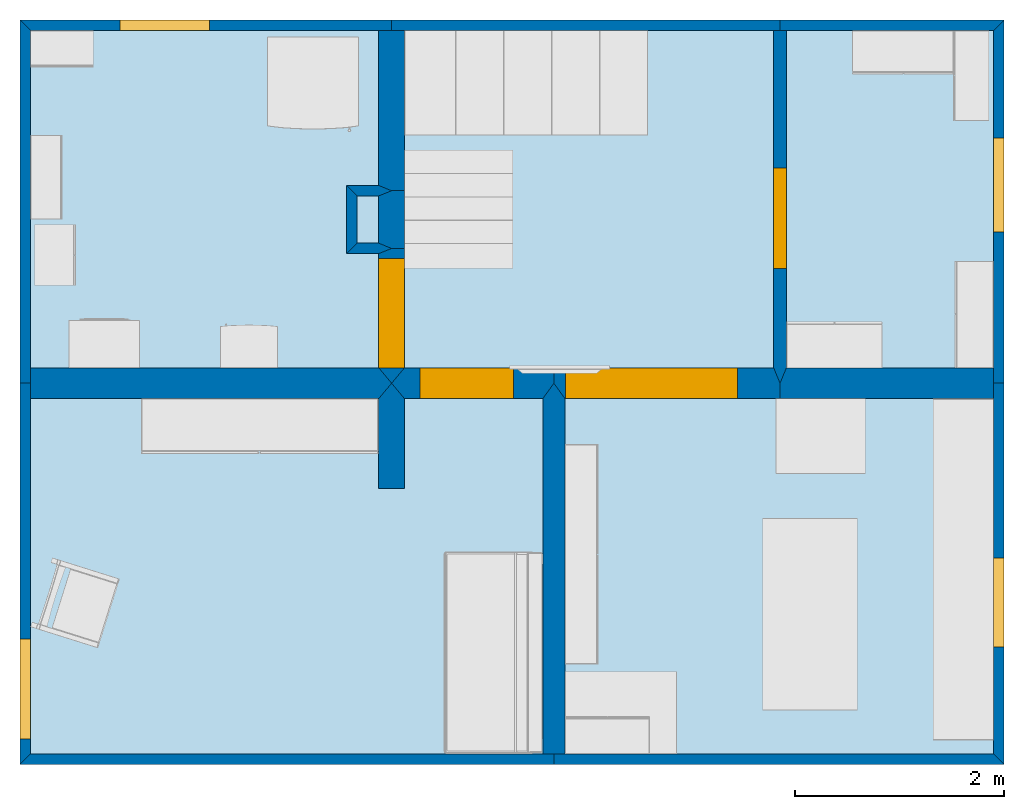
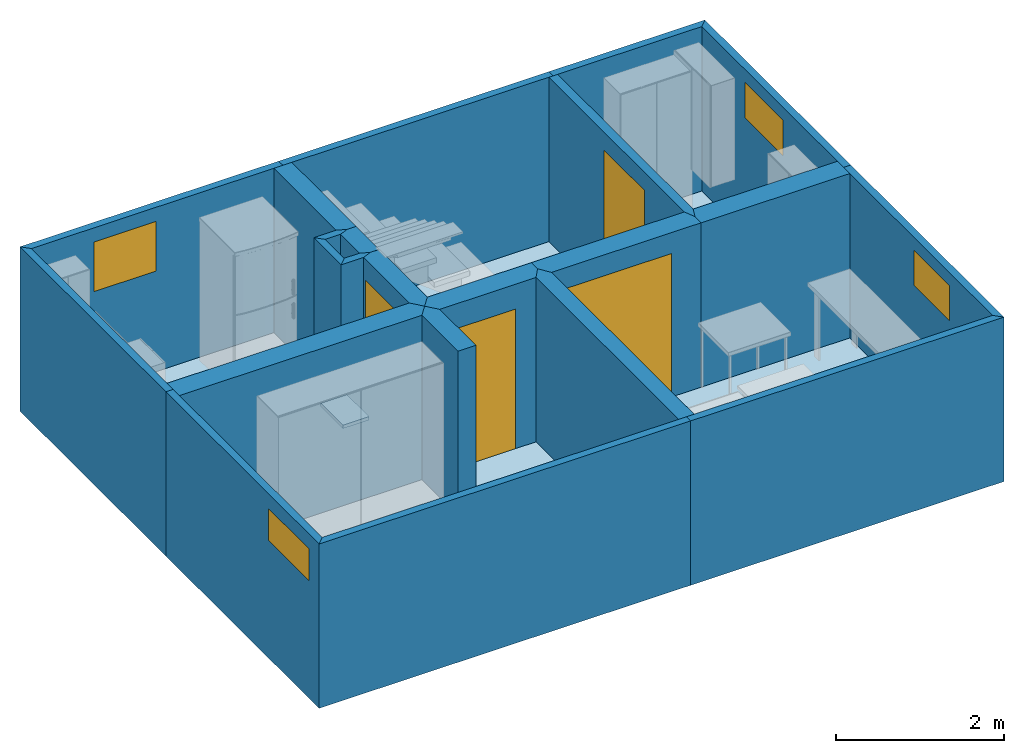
# One storey, part 1 of 8: 22 walls, 6 slabs, 4 doors, 4 windows, 8 openings.
"""IFC4 building model written with IfcOpenShell, lengths in metres."""

import ifcopenshell
import ifcopenshell.guid

model = None  # the IFC model being written
_history = None  # IfcOwnerHistory: only IFC2X3 demands one
_inside = {}  # id of a spatial element -> (the spatial element, [elements in it])
_under = {}  # id of a project, library or spatial element -> (it, [spatial elements below it])
_declared = {}  # id of a project -> (the project, [libraries it declares])
_typed = {}  # id of a type object -> (the type object, [elements of that type])
_made_of = {}  # id of a material, layer set ... -> (it, [elements and type objects made of it])


def new_model(schema):
    """Start an empty IFC model of exactly this schema.

    Asked for "IFC4X3", IfcOpenShell would pick the latest addendum, in which some entities
    have other attributes; the version numbers below select the first issue.
    IFC2X3 requires an IfcOwnerHistory on every rooted entity: one is made here for all.
    """
    global model, _history
    if schema == "IFC4X3":
        model = ifcopenshell.file(schema_version=(4, 3, 0, 0))
    else:
        model = ifcopenshell.file(schema=schema)
    _inside.clear()
    _under.clear()
    _declared.clear()
    _typed.clear()
    _made_of.clear()
    _history = None
    if model.schema == "IFC2X3":
        org = make("IfcOrganization", Name="unknown")
        user = make(
            "IfcPersonAndOrganization",
            ThePerson=make("IfcPerson", FamilyName="unknown"),
            TheOrganization=org,
        )
        app = make(
            "IfcApplication",
            ApplicationDeveloper=org,
            Version="unknown",
            ApplicationFullName="unknown",
            ApplicationIdentifier="unknown",
        )
        _history = make(
            "IfcOwnerHistory",
            OwningUser=user,
            OwningApplication=app,
            ChangeAction="ADDED",
            CreationDate=0,
        )
    return model


def make(cls, **values):
    """One entity of the class cls with the attributes given. An attribute that is None is left unset."""
    return model.create_entity(
        cls, **{name: value for name, value in values.items() if value is not None}
    )


def rooted(cls, **values):
    """An entity with a GlobalId (a new one), such as an element, a storey or a relation."""
    return make(cls, GlobalId=ifcopenshell.guid.new(), OwnerHistory=_history, **values)


def si_unit(unit_type, name, prefix=None):
    """IfcSIUnit, for example si_unit("LENGTHUNIT", "METRE", prefix="MILLI")."""
    return make("IfcSIUnit", UnitType=unit_type, Prefix=prefix, Name=name)


def assignment(units):
    """IfcUnitAssignment: the units of a project."""
    return None if units is None else make("IfcUnitAssignment", Units=units)


def point(xyz):
    """IfcCartesianPoint."""
    return None if xyz is None else make("IfcCartesianPoint", Coordinates=xyz)


def direction(xyz):
    """IfcDirection."""
    return None if xyz is None else make("IfcDirection", DirectionRatios=xyz)


def frame(location, z_axis=None, x_axis=None):
    """IfcAxis2Placement3D, a coordinate frame: its origin and axes. An axis left out is left unset."""
    return make(
        "IfcAxis2Placement3D",
        Location=point(location),
        Axis=direction(z_axis),
        RefDirection=direction(x_axis),
    )


def origin_with_axes():
    """The frame at (0, 0, 0) with the z axis (0, 0, 1) and the x axis (1, 0, 0) written out."""
    return frame((0.0, 0.0, 0.0), z_axis=(0.0, 0.0, 1.0), x_axis=(1.0, 0.0, 0.0))


def place(relative_to, where):
    """IfcLocalPlacement: puts the frame where relative to a parent placement (None: the world)."""
    return make(
        "IfcLocalPlacement", PlacementRelTo=relative_to, RelativePlacement=where
    )


def context(
    kind, dimensions, precision=None, world=None, true_north=None, identifier=None
):
    """IfcGeometricRepresentationContext, for example the 3D "Model" context."""
    return make(
        "IfcGeometricRepresentationContext",
        ContextIdentifier=identifier,
        ContextType=kind,
        CoordinateSpaceDimension=dimensions,
        Precision=precision,
        WorldCoordinateSystem=world,
        TrueNorth=true_north,
    )


def subcontext(parent, identifier, kind, view, scale=None):
    """IfcGeometricRepresentationSubContext, for example "Body" below "Model"."""
    return make(
        "IfcGeometricRepresentationSubContext",
        ContextIdentifier=identifier,
        ContextType=kind,
        ParentContext=parent,
        TargetScale=scale,
        TargetView=view,
    )


def project(units=None, contexts=None):
    """IfcProject with its units and contexts."""
    return rooted(
        "IfcProject",
        Name="project",
        RepresentationContexts=contexts,
        UnitsInContext=assignment(units),
    )


def spatial(cls, under=None, at=None, **own):
    """A site, building, storey or space (cls), placed at a placement, below another one or the project."""
    s = rooted(cls, ObjectPlacement=at, **own)
    if under is not None:
        _under.setdefault(under.id(), (under, []))[1].append(s)
    return s


def polyline(points):
    """IfcPolyline through the points."""
    return make("IfcPolyline", Points=[point(p) for p in points])


def outline(outer, holes=None, kind="AREA"):
    """IfcArbitraryClosedProfileDef: a profile drawn as a closed curve; with holes, ...WithVoids."""
    if holes is None:
        return make("IfcArbitraryClosedProfileDef", ProfileType=kind, OuterCurve=outer)
    return make(
        "IfcArbitraryProfileDefWithVoids",
        ProfileType=kind,
        OuterCurve=outer,
        InnerCurves=holes,
    )


def extrude(swept, where, along, depth):
    """IfcExtrudedAreaSolid: the profile swept, set in the frame where, extruded along a direction by depth."""
    return make(
        "IfcExtrudedAreaSolid",
        SweptArea=swept,
        Position=where,
        ExtrudedDirection=direction(along),
        Depth=depth,
    )


def shape(context_of_items, identifier, shape_type, items):
    """IfcShapeRepresentation: the items that make up one representation, for example the "Body"."""
    return make(
        "IfcShapeRepresentation",
        ContextOfItems=context_of_items,
        RepresentationIdentifier=identifier,
        RepresentationType=shape_type,
        Items=items,
    )


def made_of(thing, what):
    """Note that an element or type object is made of a material, layer set ...; save() writes the relation."""
    if what is not None:
        _made_of.setdefault(what.id(), (what, []))[1].append(thing)
    return thing


def type_object(cls, material=None, **own):
    """A type object (cls), such as IfcWallType, which elements share."""
    return made_of(rooted(cls, **own), material)


def element(
    cls,
    number,
    at=None,
    inside=None,
    cuts=None,
    type_object=None,
    material=None,
    context=None,
    identifier="Body",
    shape_type=None,
    held_by="IfcProductDefinitionShape",
    body=None,
    shapes=None,
    **own,
):
    """One element of the class cls, such as IfcWall. Its Tag is "e" and its number.

    at: its placement. inside: the storey or other place that contains it. cuts: it is an
    opening in that element (IfcRelVoidsElement). A single representation is given by context,
    identifier, shape_type and body (its items); several are given by shapes. held_by: the class
    of the entity that holds the representations. save() writes the other relations.
    """
    e = rooted(cls, Tag="e%d" % number, ObjectPlacement=at, **own)
    if body is not None:
        shapes = [shape(context, identifier, shape_type, body)]
    if shapes is not None:
        e.Representation = make(held_by, Representations=shapes)
    if inside is not None:
        _inside.setdefault(inside.id(), (inside, []))[1].append(e)
    if cuts is not None:
        rooted(
            "IfcRelVoidsElement", RelatingBuildingElement=cuts, RelatedOpeningElement=e
        )
    if type_object is not None:
        _typed.setdefault(type_object.id(), (type_object, []))[1].append(e)
    return made_of(e, material)


def fill(opening, filler):
    """IfcRelFillsElement: the door or window that sits in an opening."""
    return rooted(
        "IfcRelFillsElement",
        RelatingOpeningElement=opening,
        RelatedBuildingElement=filler,
    )


def aggregate(whole, parts):
    """IfcRelAggregates: a whole, such as a stair, and the parts it consists of."""
    return rooted("IfcRelAggregates", RelatingObject=whole, RelatedObjects=parts)


def save(model, path):
    """Write the relations noted so far, then the file.

    IfcRelAggregates (storeys below a building ...), IfcRelContainedInSpatialStructure (elements
    in a storey), IfcRelDefinesByType, IfcRelAssociatesMaterial and IfcRelDeclares: one each for
    every whole, place, type object, material and project.
    """
    for whole, parts in _under.values():
        aggregate(whole, parts)
    for where, things in _inside.values():
        rooted(
            "IfcRelContainedInSpatialStructure",
            RelatedElements=things,
            RelatingStructure=where,
        )
    for kind, things in _typed.values():
        rooted("IfcRelDefinesByType", RelatedObjects=things, RelatingType=kind)
    for what, things in _made_of.values():
        rooted("IfcRelAssociatesMaterial", RelatedObjects=things, RelatingMaterial=what)
    for by, libraries in _declared.values():
        rooted("IfcRelDeclares", RelatingContext=by, RelatedDefinitions=libraries)
    model.write(path)


model = new_model("IFC4")

# Units and contexts
model_context = context("Model", 3, precision=1e-05, world=origin_with_axes(), true_north=direction((-0.077, 0.997, 0.0)))
body_context = subcontext(model_context, "Body", "Model", "MODEL_VIEW")
ifc_project = project(units=[si_unit("AREAUNIT", "SQUARE_METRE"), si_unit("LENGTHUNIT", "METRE")], contexts=[model_context])

# Site, building, storey
site_placement = place(None, origin_with_axes())
site = spatial("IfcSite", under=ifc_project, at=site_placement, Name="Site", CompositionType="ELEMENT")
building_placement = place(site_placement, origin_with_axes())
building = spatial("IfcBuilding", under=site, at=building_placement, Name="Building", CompositionType="ELEMENT")
storey_placement = place(building_placement, frame((0.0, 0.0, 0.0500000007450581), z_axis=(0.0, 0.0, 1.0), x_axis=(1.0, 0.0, 0.0)))
storey = spatial("IfcBuildingStorey", under=building, at=storey_placement, Name="Story 0", CompositionType="ELEMENT", Elevation=0.0500000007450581)

# Slabs
slab_type_1 = type_object("IfcSlabType", Name="Metaroom Slab", PredefinedType="FLOOR")
slab_1_placement = place(storey_placement, frame((5.16774986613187, -1.60551247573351, 0.0), z_axis=(0.0, 0.0, 1.0), x_axis=(1.0, 0.0, 0.0)))
element("IfcSlab", 1, at=slab_1_placement, inside=storey, type_object=slab_type_1, Name="Floor", PredefinedType="FLOOR", context=body_context, shape_type="SweptSolid", body=[
    extrude(outline(polyline([(0.0, 0.0), (-5.3201511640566e-08, 3.37780658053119), (2.04436917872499, 3.37780646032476), (2.04436874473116, -3.36673031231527e-07), (0.0, 0.0)])), origin_with_axes(), (0.0, 0.0, -1.0), 0.05),
])
slab_type_2 = type_object("IfcSlabType", Name="Metaroom Slab", PredefinedType="FLOOR")
slab_2_placement = place(storey_placement, frame((5.16774986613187, -1.60551247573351, 0.0), z_axis=(0.0, 0.0, 1.0), x_axis=(1.0, 0.0, 0.0)))
element("IfcSlab", 2, at=slab_2_placement, inside=storey, type_object=slab_type_2, Name="Floor", PredefinedType="FLOOR", context=body_context, shape_type="SweptSolid", body=[
    extrude(outline(polyline([(0.0, 0.0), (-2.16524371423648, 1.92687026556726e-07), (-3.71899772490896, 2.57215634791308e-07), (-3.71899783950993, 1.29079334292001), (-3.71899786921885, 1.84320262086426), (-3.71899803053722, 3.37780681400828), (-5.3201511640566e-08, 3.37780658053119), (0.0, 0.0)])), origin_with_axes(), (0.0, 0.0, -1.0), 0.05),
])
slab_type_3 = type_object("IfcSlabType", Name="Metaroom Slab", PredefinedType="FLOOR")
slab_3_placement = place(storey_placement, frame((3.00250618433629, -1.60551261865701, 0.0), z_axis=(0.0, 0.0, 1.0), x_axis=(1.0, 0.0, 0.0)))
element("IfcSlab", 3, at=slab_3_placement, inside=storey, type_object=slab_type_3, Name="Floor", PredefinedType="FLOOR", context=body_context, shape_type="SweptSolid", body=[
    extrude(outline(polyline([(0.0, 0.0), (3.11921072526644e-07, -3.54880659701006), (-5.01146910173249, -3.54880657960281), (-5.01146841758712, 6.64152149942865e-07), (-1.55375404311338, 4.00139135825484e-07), (0.0, 0.0)])), origin_with_axes(), (0.0, 0.0, -1.0), 0.05),
])
slab_type_4 = type_object("IfcSlabType", Name="Metaroom Slab", PredefinedType="FLOOR")
slab_4_placement = place(storey_placement, frame((3.0025061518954, -1.60551228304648, 0.0), z_axis=(0.0, 0.0, 1.0), x_axis=(1.0, 0.0, 0.0)))
element("IfcSlab", 4, at=slab_4_placement, inside=storey, type_object=slab_type_4, Name="Floor", PredefinedType="FLOOR", context=body_context, shape_type="SweptSolid", body=[
    extrude(outline(polyline([(0.0, 0.0), (2.16524371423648, -1.92687026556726e-07), (4.20961313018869, -4.64478268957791e-07), (4.209612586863, -3.5488069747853), (4.95946783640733e-07, -3.54880674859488), (0.0, 0.0)])), origin_with_axes(), (0.0, 0.0, -1.0), 0.05),
])
slab_type_5 = type_object("IfcSlabType", Name="Metaroom Slab", PredefinedType="FLOOR")
slab_5_placement = place(storey_placement, frame((1.44875214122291, -1.60551221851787, 0.0), z_axis=(0.0, 0.0, 1.0), x_axis=(1.0, 0.0, 0.0)))
element("IfcSlab", 5, at=slab_5_placement, inside=storey, type_object=slab_type_5, Name="Floor", PredefinedType="FLOOR", context=body_context, shape_type="SweptSolid", body=[
    extrude(outline(polyline([(0.0, 0.0), (-3.45771437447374, 2.64013014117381e-07), (-3.45771435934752, 3.37780673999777), (-2.46241546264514e-07, 3.37780743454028), (2.34953831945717e-08, 1.84320237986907), (-0.381453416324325, 1.84320231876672), (-0.381453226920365, 1.29079314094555), (-1.14600961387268e-07, 1.29079308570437), (0.0, 0.0)])), origin_with_axes(), (0.0, 0.0, -1.0), 0.05),
])
slab_type_6 = type_object("IfcSlabType", Name="Metaroom Slab", PredefinedType="FLOOR")
slab_6_placement = place(storey_placement, frame((1.43711957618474, -0.304318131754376, 0.0), z_axis=(0.0, 0.0, 1.0), x_axis=(1.0, 0.0, 0.0)))
element("IfcSlab", 6, at=slab_6_placement, inside=storey, type_object=slab_type_6, Name="Floor", PredefinedType="FLOOR", context=body_context, shape_type="SweptSolid", body=[
    extrude(outline(polyline([(0.0, 0.0), (7.94810139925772e-08, 0.529999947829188), (-0.359999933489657, 0.530000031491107), (-0.360000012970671, 8.36619190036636e-08), (0.0, 0.0)])), origin_with_axes(), (0.0, 0.0, -1.0), 0.05),
])

# Wall, opening, window
wall_type_1 = type_object("IfcWallType", Name="Metaroom Wall", PredefinedType="STANDARD")
wall_1_placement = place(storey_placement, frame((7.21211904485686, 1.77229398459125, 0.0), z_axis=(0.0, 0.0, 1.0), x_axis=(1.0, 0.0, 0.0)))
wall_1 = element("IfcWallStandardCase", 7, at=wall_1_placement, inside=storey, type_object=wall_type_1, Name="Wall", context=body_context, shape_type="SweptSolid", body=[
    extrude(outline(polyline([(0.0, 0.0), (0.0999998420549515, 0.100000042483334), (0.10000021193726, -3.37780696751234), (8.5642406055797e-08, -3.37780691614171), (-5.19640828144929e-08, -3.23018313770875), (0.0, 0.0)])), origin_with_axes(), (0.0, 0.0, 1.0), 2.39036316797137),
])
opening_1_placement = place(wall_1_placement, frame((0.0, -1.02918926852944, 1.68825950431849), z_axis=(0.0, 0.0, 1.0), x_axis=(0.0, -1.0000000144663, 0.0)))
opening_1 = element("IfcOpeningElement", 8, at=opening_1_placement, cuts=wall_1, Name="Metaroom Opening", ObjectType="OPENING", context=body_context, shape_type="SweptSolid", body=[
    extrude(outline(polyline([(-4.93890998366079e-17, 0.0), (0.899295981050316, 0.0), (0.899295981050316, 0.516042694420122), (-4.93890998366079e-17, 0.516042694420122), (-4.93890998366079e-17, 0.0)])), frame((0.0, 0.0, 0.0), z_axis=(0.0, -1.0, 0.0), x_axis=(1.0, 0.0, 0.0)), (0.0, 0.0, -1.0), 0.100099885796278),
])
window_type_1 = type_object("IfcWindowType", Name="Metaroom Window area", PredefinedType="WINDOW")
window_1_placement = place(opening_1_placement, origin_with_axes())
window_1 = element("IfcWindow", 9, at=window_1_placement, inside=storey, type_object=window_type_1, Name="Metaroom Window area", OverallHeight=1.5, OverallWidth=0.5, context=body_context, shape_type="SweptSolid", body=[
    extrude(outline(polyline([(1.10754322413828e-17, 0.0), (-0.899296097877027, 0.0), (-0.899296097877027, 0.516042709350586), (1.10754322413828e-17, 0.516042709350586), (1.10754322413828e-17, 0.0)])), frame((0.0, 0.0999998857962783, 0.0), z_axis=(0.0, 1.0, 0.0), x_axis=(-1.0, 0.0, 0.0)), (0.0, 0.0, -1.0), 0.0999998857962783),
])
fill(opening_1, window_1)

# Wall, opening, door
wall_type_2 = type_object("IfcWallType", Name="Metaroom Wall", PredefinedType="STANDARD")
wall_2_placement = place(storey_placement, frame((5.1068718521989, 1.7722940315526, 0.0), z_axis=(0.0, 0.0, 1.0), x_axis=(1.0, 0.0, 0.0)))
wall_2 = element("IfcWallStandardCase", 10, at=wall_2_placement, inside=storey, type_object=wall_type_2, Name="Wall", context=body_context, shape_type="SweptSolid", body=[
    extrude(outline(polyline([(0.0, 0.0), (0.0608779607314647, 7.32450808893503e-08), (0.121755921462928, 1.46490161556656e-07), (0.121756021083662, -3.23018280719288), (0.0608780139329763, -3.3778065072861), (2.51205550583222e-07, -3.23018276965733), (0.0, 0.0)])), origin_with_axes(), (0.0, 0.0, 1.0), 2.39036316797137),
])
opening_2_placement = place(wall_2_placement, frame((0.12175584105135, -2.2807083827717, 0.0), z_axis=(0.0, 0.0, 1.0), x_axis=(0.0, 1.0000000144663, 0.0)))
opening_2 = element("IfcOpeningElement", 11, at=opening_2_placement, cuts=wall_2, Name="Metaroom Opening", ObjectType="OPENING", context=body_context, shape_type="SweptSolid", body=[
    extrude(outline(polyline([(-4.79143377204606e-17, 0.0), (0.961671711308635, 0.0), (0.961671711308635, 2.12787712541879), (-4.79143377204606e-17, 2.12787712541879), (-4.79143377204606e-17, 0.0)])), frame((0.0, 0.0, 0.0), z_axis=(0.0, -1.0, 0.0), x_axis=(1.0, 0.0, 0.0)), (0.0, 0.0, -1.0), 0.121855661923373),
])
door_type_1 = type_object("IfcDoorType", Name="Metaroom Door area", PredefinedType="DOOR")
door_1_placement = place(opening_2_placement, origin_with_axes())
door_1 = element("IfcDoor", 12, at=door_1_placement, inside=storey, type_object=door_type_1, Name="Metaroom Door area", OverallHeight=2.12787718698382, OverallWidth=0.961671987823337, context=body_context, shape_type="SweptSolid", body=[
    extrude(outline(polyline([(-1.48167502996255e-17, 0.0), (-0.961671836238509, 0.0), (-0.961671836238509, 2.12787718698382), (-1.48167502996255e-17, 2.12787718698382), (-1.48167502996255e-17, 0.0)])), frame((0.0, 0.121755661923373, 0.0), z_axis=(0.0, 1.0, 0.0), x_axis=(-1.0, 0.0, 0.0)), (0.0, 0.0, -1.0), 0.121755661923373),
])
fill(opening_2, door_1)

# Walls
wall_type_3 = type_object("IfcWallType", Name="Metaroom Wall", PredefinedType="STANDARD")
wall_3_placement = place(storey_placement, frame((5.16775007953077, -1.75313616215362, 0.0), z_axis=(0.0, 0.0, 1.0), x_axis=(1.0, 0.0, 0.0)))
element("IfcWallStandardCase", 13, at=wall_3_placement, inside=storey, type_object=wall_type_3, Name="Wall", context=body_context, shape_type="SweptSolid", body=[
    extrude(outline(polyline([(0.0, 0.0), (-2.13398897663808e-07, 0.147623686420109), (0.0608777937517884, 0.295247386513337), (2.04436891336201, 0.295247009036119), (2.0443690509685, 0.147623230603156), (2.04436882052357, -2.44660175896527e-07), (0.0, 0.0)])), origin_with_axes(), (0.0, 0.0, 1.0), 2.39036316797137),
])
wall_type_4 = type_object("IfcWallType", Name="Metaroom Wall", PredefinedType="STANDARD")
wall_4_placement = place(storey_placement, frame((5.22862777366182, 1.77229417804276, 0.0), z_axis=(0.0, 0.0, 1.0), x_axis=(1.0, 0.0, 0.0)))
element("IfcWallStandardCase", 14, at=wall_4_placement, inside=storey, type_object=wall_type_4, Name="Wall", context=body_context, shape_type="SweptSolid", body=[
    extrude(outline(polyline([(0.0, 0.0), (-0.0608779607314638, -7.32450806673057e-08), (-0.0608779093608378, 0.100000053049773), (2.08349111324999, 0.0999998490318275), (1.98349127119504, -1.93451506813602e-07), (0.0, 0.0)])), origin_with_axes(), (0.0, 0.0, 1.0), 2.39036316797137),
])

# Wall, opening, door
wall_type_5 = type_object("IfcWallType", Name="Metaroom Wall", PredefinedType="STANDARD")
wall_5_placement = place(storey_placement, frame((3.108776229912, -1.75313611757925, 0.0), z_axis=(0.0, 0.0, 1.0), x_axis=(1.0, 0.0, 0.0)))
wall_5 = element("IfcWallStandardCase", 15, at=wall_5_placement, inside=storey, type_object=wall_type_5, Name="Wall", context=body_context, shape_type="SweptSolid", body=[
    extrude(outline(polyline([(0.0, 0.0), (-0.106269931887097, 0.147623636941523), (-0.10627010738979, 0.295247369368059), (1.99809587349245, 0.295247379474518), (2.05897363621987, 0.147623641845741), (2.05897384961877, -4.45743681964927e-08), (0.0, 0.0)])), origin_with_axes(), (0.0, 0.0, 1.0), 2.39036316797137),
])
opening_3_placement = place(wall_5_placement, frame((0.00566741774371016, 0.0, 0.0), z_axis=(0.0, 0.0, 1.0), x_axis=(1.0000000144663, 0.0, 0.0)))
opening_3 = element("IfcOpeningElement", 16, at=opening_3_placement, cuts=wall_5, Name="Metaroom Opening", ObjectType="OPENING", context=body_context, shape_type="SweptSolid", body=[
    extrude(outline(polyline([(0.0, 0.0), (1.6466464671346, 0.0), (1.6466464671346, 2.08590782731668), (0.0, 2.08590782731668), (0.0, 0.0)])), frame((0.0, 0.0, 0.0), z_axis=(0.0, -1.0, 0.0), x_axis=(1.0, 0.0, 0.0)), (0.0, 0.0, -1.0), 0.295347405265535),
])
door_type_2 = type_object("IfcDoorType", Name="Metaroom Door area", PredefinedType="DOOR")
door_2_placement = place(opening_3_placement, origin_with_axes())
door_2 = element("IfcDoor", 17, at=door_2_placement, inside=storey, type_object=door_type_2, Name="Metaroom Door area", OverallHeight=2.08590741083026, OverallWidth=1.64664661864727, context=body_context, shape_type="SweptSolid", body=[
    extrude(outline(polyline([(0.0, 0.0), (-1.64664661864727, 0.0), (-1.64664661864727, 2.08590788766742), (0.0, 2.08590788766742), (0.0, 0.0)])), frame((0.0, 0.295247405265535, 0.0), z_axis=(0.0, 1.0, 0.0), x_axis=(-1.0, 0.0, 0.0)), (0.0, 0.0, -1.0), 0.295247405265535),
])
fill(opening_3, door_2)

# Wall
wall_type_6 = type_object("IfcWallType", Name="Metaroom Wall", PredefinedType="STANDARD")
wall_6_placement = place(storey_placement, frame((1.57188534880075, 1.77229459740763, 0.0), z_axis=(0.0, 0.0, 1.0), x_axis=(1.0, 0.0, 0.0)))
element("IfcWallStandardCase", 18, at=wall_6_placement, inside=storey, type_object=wall_type_6, Name="Wall", context=body_context, shape_type="SweptSolid", body=[
    extrude(outline(polyline([(0.0, 0.0), (-0.123133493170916, 3.32523057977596e-08), (-0.12313356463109, 0.099999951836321), (3.59586451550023, 0.0999996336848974), (3.59586446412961, -4.92609956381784e-07), (3.53498650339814, -5.65855037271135e-07), (0.0, 0.0)])), origin_with_axes(), (0.0, 0.0, 1.0), 2.39036316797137),
])

# Wall, opening, door
wall_type_7 = type_object("IfcWallType", Name="Metaroom Wall", PredefinedType="STANDARD")
wall_7_placement = place(storey_placement, frame((1.32561862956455, -0.364719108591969, 0.0), z_axis=(0.0, 0.0, 1.0), x_axis=(1.0, 0.0, 0.0)))
wall_7 = element("IfcWallStandardCase", 19, at=wall_7_placement, inside=storey, type_object=wall_type_7, Name="Wall", context=body_context, shape_type="SweptSolid", body=[
    extrude(outline(polyline([(0.0, 0.0), (0.123133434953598, 0.0500000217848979), (0.246267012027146, 0.0499999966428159), (0.246266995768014, -1.09316948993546), (0.123133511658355, -1.2407931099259), (-1.89959721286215e-08, -1.09316945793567), (0.0, 0.0)])), origin_with_axes(), (0.0, 0.0, 1.0), 2.39036316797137),
])
opening_4_placement = place(wall_7_placement, frame((0.246266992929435, -1.09316950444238, 0.0), z_axis=(0.0, 0.0, 1.0), x_axis=(0.0, 1.0000000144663, 0.0)))
opening_4 = element("IfcOpeningElement", 20, at=opening_4_placement, cuts=wall_7, Name="Metaroom Opening", ObjectType="OPENING", context=body_context, shape_type="SweptSolid", body=[
    extrude(outline(polyline([(4.68943053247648e-17, 0.0), (1.04486248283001, 0.0), (1.04486248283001, 2.08575047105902), (4.68943053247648e-17, 2.08575047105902), (4.68943053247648e-17, 0.0)])), frame((0.0, 0.0, 0.0), z_axis=(0.0, -1.0, 0.0), x_axis=(1.0, 0.0, 0.0)), (0.0, 0.0, -1.0), 0.246367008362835),
])
door_type_3 = type_object("IfcDoorType", Name="Metaroom Door area", PredefinedType="DOOR")
door_3_placement = place(opening_4_placement, origin_with_axes())
door_3 = element("IfcDoor", 21, at=door_3_placement, inside=storey, type_object=door_type_3, Name="Metaroom Door area", OverallHeight=2.08575005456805, OverallWidth=1.16787165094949, context=body_context, shape_type="SweptSolid", body=[
    extrude(outline(polyline([(9.53746128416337e-17, 0.0), (-1.04486261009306, 0.0), (-1.04486261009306, 2.08575053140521), (9.53746128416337e-17, 2.08575053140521), (9.53746128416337e-17, 0.0)])), frame((0.0, 0.246267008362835, 0.0), z_axis=(0.0, 1.0, 0.0), x_axis=(-1.0, 0.0, 0.0)), (0.0, 0.0, -1.0), 0.246267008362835),
])
fill(opening_4, door_3)

wall_type_8 = type_object("IfcWallType", Name="Metaroom Wall", PredefinedType="STANDARD")
wall_8_placement = place(storey_placement, frame((1.57188557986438, -1.75313579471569, 0.0), z_axis=(0.0, 0.0, 1.0), x_axis=(1.0, 0.0, 0.0)))
wall_8 = element("IfcWallStandardCase", 22, at=wall_8_placement, inside=storey, type_object=wall_type_8, Name="Wall", context=body_context, shape_type="SweptSolid", body=[
    extrude(outline(polyline([(0.0, 0.0), (-0.123133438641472, 0.147623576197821), (4.54681878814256e-08, 0.29524719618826), (1.43062058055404, 0.295247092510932), (1.43062071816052, 0.147623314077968), (1.32435073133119, -2.56670376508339e-07), (0.0, 0.0)])), origin_with_axes(), (0.0, 0.0, 1.0), 2.39036316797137),
])
opening_5_placement = place(wall_8_placement, frame((0.148030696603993, 0.0, 0.0), z_axis=(0.0, 0.0, 1.0), x_axis=(0.999999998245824, 0.0, 0.0)))
opening_5 = element("IfcOpeningElement", 23, at=opening_5_placement, cuts=wall_8, Name="Metaroom Opening", ObjectType="OPENING", context=body_context, shape_type="SweptSolid", body=[
    extrude(outline(polyline([(0.0, 0.0), (0.895734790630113, 0.0), (0.895734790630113, 2.02951379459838), (0.0, 2.02951379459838), (0.0, 0.0)])), frame((0.0, 0.0, 0.0), z_axis=(0.0, -1.0, 0.0), x_axis=(1.0, 0.0, 0.0)), (0.0, 0.0, -1.0), 0.295347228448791),
])
door_type_4 = type_object("IfcDoorType", Name="Metaroom Door area", PredefinedType="DOOR")
door_4_placement = place(opening_5_placement, origin_with_axes())
door_4 = element("IfcDoor", 24, at=door_4_placement, inside=storey, type_object=door_type_4, Name="Metaroom Door area", OverallHeight=2.02951331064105, OverallWidth=0.895734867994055, context=body_context, shape_type="SweptSolid", body=[
    extrude(outline(polyline([(0.0, 0.0), (-0.895734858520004, 0.0), (-0.895734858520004, 2.02951378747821), (0.0, 2.02951378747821), (0.0, 0.0)])), frame((0.0, 0.295247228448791, 0.0), z_axis=(0.0, 1.0, 0.0), x_axis=(-1.0, 0.0, 0.0)), (0.0, 0.0, -1.0), 0.295247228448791),
])
fill(opening_5, door_4)

# Walls
wall_type_9 = type_object("IfcWallType", Name="Metaroom Wall", PredefinedType="STANDARD")
wall_9_placement = place(storey_placement, frame((1.32561856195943, 0.187690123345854, 0.0), z_axis=(0.0, 0.0, 1.0), x_axis=(1.0, 0.0, 0.0)))
element("IfcWallStandardCase", 25, at=wall_9_placement, inside=storey, type_object=wall_type_9, Name="Wall", context=body_context, shape_type="SweptSolid", body=[
    extrude(outline(polyline([(0.0, 0.0), (0.123133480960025, 0.0499999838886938), (0.246266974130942, 0.0499999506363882), (0.246267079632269, -0.502409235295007), (0.123133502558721, -0.502409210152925), (5.28713672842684e-09, -0.452409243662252), (0.0, 0.0)])), origin_with_axes(), (0.0, 0.0, 1.0), 2.39036316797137),
])
wall_type_10 = type_object("IfcWallType", Name="Metaroom Wall", PredefinedType="STANDARD")
wall_10_placement = place(storey_placement, frame((1.32561836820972, 1.77229465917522, 0.0), z_axis=(0.0, 0.0, 1.0), x_axis=(1.0, 0.0, 0.0)))
element("IfcWallStandardCase", 26, at=wall_10_placement, inside=storey, type_object=wall_type_10, Name="Wall", context=body_context, shape_type="SweptSolid", body=[
    extrude(outline(polyline([(0.0, 0.0), (0.123133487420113, -2.85152799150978e-08), (0.246266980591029, -6.17675857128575e-08), (0.246267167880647, -1.53460458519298), (0.123133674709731, -1.53460455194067), (1.31431718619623e-07, -1.4846045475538), (0.0, 0.0)])), origin_with_axes(), (0.0, 0.0, 1.0), 2.39036316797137),
])
wall_type_11 = type_object("IfcWallType", Name="Metaroom Wall", PredefinedType="STANDARD")
wall_11_placement = place(storey_placement, frame((2.89623631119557, -1.75313605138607, 0.0), z_axis=(0.0, 0.0, 1.0), x_axis=(1.0, 0.0, 0.0)))
element("IfcWallStandardCase", 27, at=wall_11_placement, inside=storey, type_object=wall_type_11, Name="Wall", context=body_context, shape_type="SweptSolid", body=[
    extrude(outline(polyline([(0.0, 0.0), (0.106269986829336, 0.147623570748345), (0.212539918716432, -6.61931780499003e-08), (0.212540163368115, -3.40118317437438), (0.106270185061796, -3.401183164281), (2.06755478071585e-07, -3.40118315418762), (0.0, 0.0)])), origin_with_axes(), (0.0, 0.0, 1.0), 2.39036316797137),
])

# Wall, opening, window
wall_type_12 = type_object("IfcWallType", Name="Metaroom Wall", PredefinedType="STANDARD")
wall_12_placement = place(storey_placement, frame((-2.10896226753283, -1.60551197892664, 0.0), z_axis=(0.0, 0.0, 1.0), x_axis=(1.0, 0.0, 0.0)))
wall_12 = element("IfcWallStandardCase", 28, at=wall_12_placement, inside=storey, type_object=wall_type_12, Name="Wall", context=body_context, shape_type="SweptSolid", body=[
    extrude(outline(polyline([(0.0, 0.0), (0.100000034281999, 2.44217825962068e-08), (0.100000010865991, -0.147623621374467), (0.0999994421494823, -3.54880729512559), (-5.83931181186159e-07, -3.64880718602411), (0.0, 0.0)])), origin_with_axes(), (0.0, 0.0, 1.0), 2.39036316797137),
])
opening_6_placement = place(wall_12_placement, frame((0.0999994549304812, -3.40694778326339, 1.71169705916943), z_axis=(0.0, 0.0, 1.0), x_axis=(0.0, 0.999999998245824, 0.0)))
opening_6 = element("IfcOpeningElement", 29, at=opening_6_placement, cuts=wall_12, Name="Metaroom Opening", ObjectType="OPENING", context=body_context, shape_type="SweptSolid", body=[
    extrude(outline(polyline([(-7.83827878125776e-17, 0.0), (0.960611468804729, 0.0), (0.960611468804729, 0.461574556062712), (-7.83827878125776e-17, 0.461574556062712), (-7.83827878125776e-17, 0.0)])), frame((0.0, 0.0, 0.0), z_axis=(0.0, -1.0, 0.0), x_axis=(1.0, 0.0, 0.0)), (0.0, 0.0, -1.0), 0.100100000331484),
])
window_type_2 = type_object("IfcWindowType", Name="Metaroom Window area", PredefinedType="WINDOW")
window_2_placement = place(opening_6_placement, origin_with_axes())
window_2 = element("IfcWindow", 30, at=window_2_placement, inside=storey, type_object=window_type_2, Name="Metaroom Window area", OverallHeight=1.5, OverallWidth=0.5, context=body_context, shape_type="SweptSolid", body=[
    extrude(outline(polyline([(-4.3548062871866e-16, 0.0), (-0.960611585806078, 0.0), (-0.960611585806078, 0.461574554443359), (-4.3548062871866e-16, 0.461574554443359), (-4.3548062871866e-16, 0.0)])), frame((0.0, 0.100000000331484, 0.0), z_axis=(0.0, 1.0, 0.0), x_axis=(-1.0, 0.0, 0.0)), (0.0, 0.0, -1.0), 0.100000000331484),
])
fill(opening_6, window_2)

# Walls
wall_type_13 = type_object("IfcWallType", Name="Metaroom Wall", PredefinedType="STANDARD")
wall_13_placement = place(storey_placement, frame((-2.10896285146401, -5.25431916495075, 0.0), z_axis=(0.0, 0.0, 1.0), x_axis=(1.0, 0.0, 0.0)))
element("IfcWallStandardCase", 31, at=wall_13_placement, inside=storey, type_object=wall_type_13, Name="Wall", context=body_context, shape_type="SweptSolid", body=[
    extrude(outline(polyline([(0.0, 0.0), (0.100000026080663, 0.0999998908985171), (5.00519936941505, 0.099999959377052), (5.11146934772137, 0.0999999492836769), (5.11146926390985, 1.58599350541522e-07), (0.0, 0.0)])), origin_with_axes(), (0.0, 0.0, 1.0), 2.39036316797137),
])
wall_type_14 = type_object("IfcWallType", Name="Metaroom Wall", PredefinedType="STANDARD")
wall_14_placement = place(storey_placement, frame((-2.00896225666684, -1.75313560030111, 0.0), z_axis=(0.0, 0.0, 1.0), x_axis=(1.0, 0.0, 0.0)))
element("IfcWallStandardCase", 32, at=wall_14_placement, inside=storey, type_object=wall_type_14, Name="Wall", context=body_context, shape_type="SweptSolid", body=[
    extrude(outline(polyline([(0.0, 0.0), (2.34160077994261e-08, 0.147623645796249), (6.98352291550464e-08, 0.295247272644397), (3.33458086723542, 0.295247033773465), (3.45771439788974, 0.147623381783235), (3.33458090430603, -2.49708810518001e-07), (0.0, 0.0)])), origin_with_axes(), (0.0, 0.0, 1.0), 2.39036316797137),
])
wall_type_15 = type_object("IfcWallType", Name="Metaroom Wall", PredefinedType="STANDARD")
wall_15_placement = place(storey_placement, frame((1.3256186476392, -1.75313585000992, 0.0), z_axis=(0.0, 0.0, 1.0), x_axis=(1.0, 0.0, 0.0)))
element("IfcWallStandardCase", 33, at=wall_15_placement, inside=storey, type_object=wall_type_15, Name="Wall", context=body_context, shape_type="SweptSolid", body=[
    extrude(outline(polyline([(0.0, 0.0), (0.123133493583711, 0.147623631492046), (0.246266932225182, 5.52942249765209e-08), (0.246267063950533, -0.861234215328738), (9.38291468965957e-08, -0.861234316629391), (0.0, 0.0)])), origin_with_axes(), (0.0, 0.0, 1.0), 2.39036316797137),
])

# Wall, opening, window
wall_type_16 = type_object("IfcWallType", Name="Metaroom Wall", PredefinedType="STANDARD")
wall_16_placement = place(storey_placement, frame((7.21211890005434, -1.75313640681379, 0.0), z_axis=(0.0, 0.0, 1.0), x_axis=(1.0, 0.0, 0.0)))
wall_16 = element("IfcWallStandardCase", 34, at=wall_16_placement, inside=storey, type_object=wall_type_16, Name="Wall", context=body_context, shape_type="SweptSolid", body=[
    extrude(outline(polyline([(0.0, 0.0), (2.30444933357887e-07, 0.147623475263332), (0.100000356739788, 0.147623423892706), (0.0999998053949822, -3.5011827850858), (-1.23399738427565e-07, -3.40118280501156), (0.0, 0.0)])), origin_with_axes(), (0.0, 0.0, 1.0), 2.39036316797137),
])
opening_7_placement = place(wall_16_placement, frame((0.0, -1.52770395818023, 1.6916593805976), z_axis=(0.0, 0.0, 1.0), x_axis=(0.0, -1.00000000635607, 0.0)))
opening_7 = element("IfcOpeningElement", 35, at=opening_7_placement, cuts=wall_16, Name="Metaroom Opening", ObjectType="OPENING", context=body_context, shape_type="SweptSolid", body=[
    extrude(outline(polyline([(-2.18812538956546e-16, 0.0), (0.850731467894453, 0.0), (0.850731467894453, 0.509086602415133), (-2.18812538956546e-16, 0.509086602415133), (-2.18812538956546e-16, 0.0)])), frame((0.0, 0.0, 0.0), z_axis=(0.0, -1.0, 0.0), x_axis=(1.0, 0.0, 0.0)), (0.0, 0.0, -1.0), 0.100099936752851),
])
window_type_3 = type_object("IfcWindowType", Name="Metaroom Window area", PredefinedType="WINDOW")
window_3_placement = place(opening_7_placement, origin_with_axes())
window_3 = element("IfcWindow", 36, at=window_3_placement, inside=storey, type_object=window_type_3, Name="Metaroom Window area", OverallHeight=1.5, OverallWidth=0.5, context=body_context, shape_type="SweptSolid", body=[
    extrude(outline(polyline([(1.25337794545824e-16, 0.0), (-0.850731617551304, 0.0), (-0.850731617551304, 0.509086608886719), (1.25337794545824e-16, 0.509086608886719), (1.25337794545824e-16, 0.0)])), frame((0.0, 0.099999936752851, 0.0), z_axis=(0.0, 1.0, 0.0), x_axis=(-1.0, 0.0, 0.0)), (0.0, 0.0, -1.0), 0.099999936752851),
])
fill(opening_7, window_3)

# Walls
wall_type_17 = type_object("IfcWallType", Name="Metaroom Wall", PredefinedType="STANDARD")
wall_17_placement = place(storey_placement, frame((3.00250641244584, -5.2543190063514, 0.0), z_axis=(0.0, 0.0, 1.0), x_axis=(1.0, 0.0, 0.0)))
element("IfcWallStandardCase", 37, at=wall_17_placement, inside=storey, type_object=wall_type_17, Name="Wall", context=body_context, shape_type="SweptSolid", body=[
    extrude(outline(polyline([(0.0, 0.0), (8.38115203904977e-08, 0.0999997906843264), (0.106270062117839, 0.0999997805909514), (4.20961236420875, 0.09999979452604), (4.30961229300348, -1.85548195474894e-07), (0.0, 0.0)])), origin_with_axes(), (0.0, 0.0, 1.0), 2.39036316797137),
])
wall_type_18 = type_object("IfcWallType", Name="Metaroom Wall", PredefinedType="STANDARD")
wall_18_placement = place(storey_placement, frame((1.01729886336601, -0.364719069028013, 0.0), z_axis=(0.0, 0.0, 1.0), x_axis=(1.0, 0.0, 0.0)))
element("IfcWallStandardCase", 38, at=wall_18_placement, inside=storey, type_object=wall_type_18, Name="Wall", context=body_context, shape_type="SweptSolid", body=[
    extrude(outline(polyline([(0.0, 0.0), (0.0999999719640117, 0.100000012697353), (0.30831970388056, 0.0999999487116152), (0.431453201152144, 0.0499999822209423), (0.308319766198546, -3.95639556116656e-08), (0.0, 0.0)])), origin_with_axes(), (0.0, 0.0, 1.0), 2.39036316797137),
])
wall_type_19 = type_object("IfcWallType", Name="Metaroom Wall", PredefinedType="STANDARD")
wall_19_placement = place(storey_placement, frame((1.11729879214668, 0.187690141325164, 0.0), z_axis=(0.0, 0.0, 1.0), x_axis=(1.0, 0.0, 0.0)))
element("IfcWallStandardCase", 39, at=wall_19_placement, inside=storey, type_object=wall_type_19, Name="Wall", context=body_context, shape_type="SweptSolid", body=[
    extrude(outline(polyline([(0.0, 0.0), (-0.100000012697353, 0.0999999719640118), (0.208319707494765, 0.0999999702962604), (0.331453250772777, 0.0499999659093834), (0.208319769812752, -1.7979310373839e-08), (0.0, 0.0)])), origin_with_axes(), (0.0, 0.0, 1.0), 2.39036316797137),
])
wall_type_20 = type_object("IfcWallType", Name="Metaroom Wall", PredefinedType="STANDARD")
wall_20_placement = place(storey_placement, frame((1.01729877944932, 0.287690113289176, 0.0), z_axis=(0.0, 0.0, 1.0), x_axis=(1.0, 0.0, 0.0)))
element("IfcWallStandardCase", 40, at=wall_20_placement, inside=storey, type_object=wall_type_20, Name="Wall", context=body_context, shape_type="SweptSolid", body=[
    extrude(outline(polyline([(0.0, 0.0), (0.100000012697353, -0.0999999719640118), (0.100000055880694, -0.552409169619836), (8.39166822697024e-08, -0.65240918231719), (0.0, 0.0)])), origin_with_axes(), (0.0, 0.0, 1.0), 2.39036316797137),
])

# Wall, opening, window
wall_type_21 = type_object("IfcWallType", Name="Metaroom Wall", PredefinedType="STANDARD")
wall_21_placement = place(storey_placement, frame((-2.00896186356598, 1.77229457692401, 0.0), z_axis=(0.0, 0.0, 1.0), x_axis=(1.0, 0.0, 0.0)))
wall_21 = element("IfcWallStandardCase", 41, at=wall_21_placement, inside=storey, type_object=wall_type_21, Name="Wall", context=body_context, shape_type="SweptSolid", body=[
    extrude(outline(polyline([(0.0, 0.0), (-0.100000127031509, 0.100000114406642), (3.45771364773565, 0.0999999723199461), (3.45771371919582, 5.37359308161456e-08), (3.33458023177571, 8.22512107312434e-08), (0.0, 0.0)])), origin_with_axes(), (0.0, 0.0, 1.0), 2.39036316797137),
])
opening_8_placement = place(wall_21_placement, frame((0.858259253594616, 0.0, 1.46326199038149), z_axis=(0.0, 0.0, 1.0), x_axis=(1.0000000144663, 0.0, 0.0)))
opening_8 = element("IfcOpeningElement", 42, at=opening_8_placement, cuts=wall_21, Name="Metaroom Opening", ObjectType="OPENING", context=body_context, shape_type="SweptSolid", body=[
    extrude(outline(polyline([(0.0, 0.0), (0.857327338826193, 0.0), (0.857327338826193, 0.72123716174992), (0.0, 0.72123716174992), (0.0, 0.0)])), frame((0.0, 0.0, 0.0), z_axis=(0.0, -1.0, 0.0), x_axis=(1.0, 0.0, 0.0)), (0.0, 0.0, -1.0), 0.100099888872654),
])
window_type_4 = type_object("IfcWindowType", Name="Metaroom Window area", PredefinedType="WINDOW")
window_4_placement = place(opening_8_placement, origin_with_axes())
window_4 = element("IfcWindow", 43, at=window_4_placement, inside=storey, type_object=window_type_4, Name="Metaroom Window area", OverallHeight=1.5, OverallWidth=0.5, context=body_context, shape_type="SweptSolid", body=[
    extrude(outline(polyline([(0.0, 0.0), (-0.857327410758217, 0.0), (-0.857327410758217, 0.721237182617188), (0.0, 0.721237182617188), (0.0, 0.0)])), frame((0.0, 0.099999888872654, 0.0), z_axis=(0.0, 1.0, 0.0), x_axis=(-1.0, 0.0, 0.0)), (0.0, 0.0, -1.0), 0.099999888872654),
])
fill(opening_8, window_4)

# Wall
wall_type_22 = type_object("IfcWallType", Name="Metaroom Wall", PredefinedType="STANDARD")
wall_22_placement = place(storey_placement, frame((-2.10896199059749, 1.87229469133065, 0.0), z_axis=(0.0, 0.0, 1.0), x_axis=(1.0, 0.0, 0.0)))
element("IfcWallStandardCase", 44, at=wall_22_placement, inside=storey, type_object=wall_type_22, Name="Wall", context=body_context, shape_type="SweptSolid", body=[
    extrude(outline(polyline([(0.0, 0.0), (0.100000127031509, -0.100000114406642), (0.0999998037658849, -3.33018301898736), (0.0999997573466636, -3.47780664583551), (-2.76935335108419e-07, -3.47780667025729), (0.0, 0.0)])), origin_with_axes(), (0.0, 0.0, 1.0), 2.39036316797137),
])

save(model, "model.ifc")
